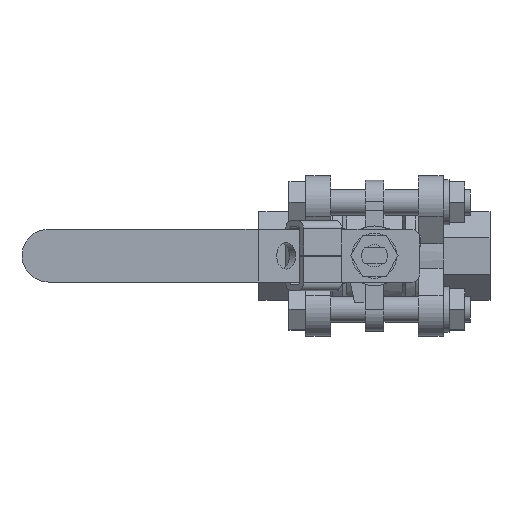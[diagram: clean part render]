
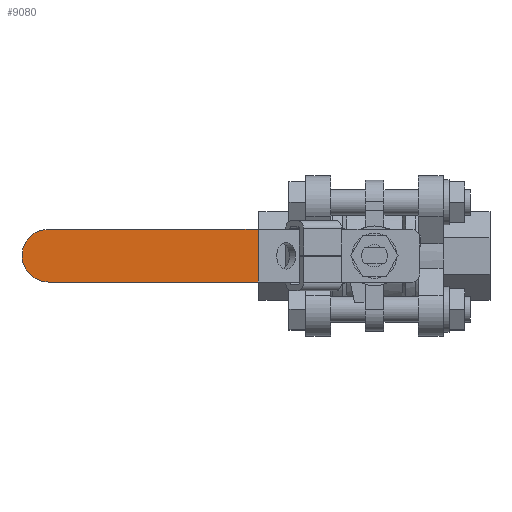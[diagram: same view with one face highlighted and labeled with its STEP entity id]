
A CAD part, top view. The second image highlights one B-rep face of the part: STEP entity #9080.
In plain terms, the highlighted planar face has unit normal (0, 0, 1).
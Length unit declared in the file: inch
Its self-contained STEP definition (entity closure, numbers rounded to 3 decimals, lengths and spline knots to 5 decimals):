
#8912=CARTESIAN_POINT('',(-2.5455,-0.315,2.8505));
#8913=VERTEX_POINT('',#8912);
#8920=CARTESIAN_POINT('',(-2.5455,0.315,2.8505));
#8921=VERTEX_POINT('',#8920);
#8922=CARTESIAN_POINT('',(-2.5455,0.,2.8505));
#8923=DIRECTION('',(0.0,0.0,1.0));
#8924=DIRECTION('',(-1.0,0.0,0.0));
#8925=AXIS2_PLACEMENT_3D('',#8922,#8923,#8924);
#8926=CIRCLE('',#8925,0.315);
#8927=EDGE_CURVE('',#8921,#8913,#8926,.T.);
#8984=CARTESIAN_POINT('',(-0.03784,-0.315,2.8505));
#8985=VERTEX_POINT('',#8984);
#8992=CARTESIAN_POINT('',(-2.5455,-0.315,2.8505));
#8993=DIRECTION('',(1.0,0.0,0.0));
#8994=VECTOR('',#8993,2.50766);
#8995=LINE('',#8992,#8994);
#8996=EDGE_CURVE('',#8913,#8985,#8995,.T.);
#9007=CARTESIAN_POINT('',(-0.03784,0.315,2.8505));
#9008=VERTEX_POINT('',#9007);
#9009=CARTESIAN_POINT('',(-0.03784,0.315,2.8505));
#9010=DIRECTION('',(-1.0,0.0,0.0));
#9011=VECTOR('',#9010,2.50766);
#9012=LINE('',#9009,#9011);
#9013=EDGE_CURVE('',#9008,#8921,#9012,.T.);
#9064=CARTESIAN_POINT('',(-0.03784,-0.315,2.8505));
#9065=DIRECTION('',(0.0,0.0,1.0));
#9066=DIRECTION('',(1.0,0.0,0.0));
#9067=AXIS2_PLACEMENT_3D('',#9064,#9065,#9066);
#9068=PLANE('',#9067);
#9069=ORIENTED_EDGE('',*,*,#8927,.T.);
#9070=ORIENTED_EDGE('',*,*,#8996,.T.);
#9071=CARTESIAN_POINT('',(-0.03784,-0.315,2.8505));
#9072=DIRECTION('',(0.0,1.0,0.0));
#9073=VECTOR('',#9072,0.63);
#9074=LINE('',#9071,#9073);
#9075=EDGE_CURVE('',#8985,#9008,#9074,.T.);
#9076=ORIENTED_EDGE('',*,*,#9075,.T.);
#9077=ORIENTED_EDGE('',*,*,#9013,.T.);
#9078=EDGE_LOOP('',(#9069,#9070,#9076,#9077));
#9079=FACE_OUTER_BOUND('',#9078,.T.);
#9080=ADVANCED_FACE('',(#9079),#9068,.T.);
